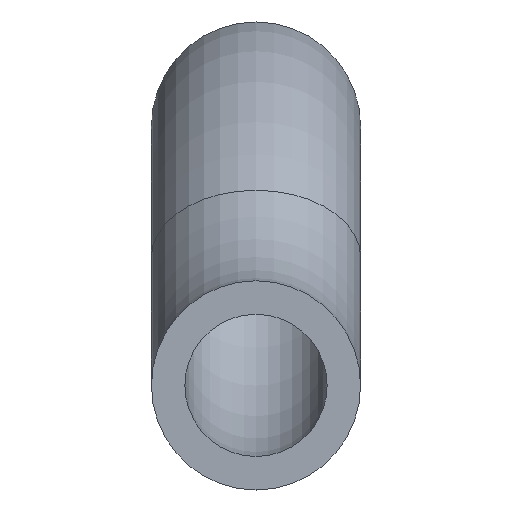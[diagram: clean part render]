
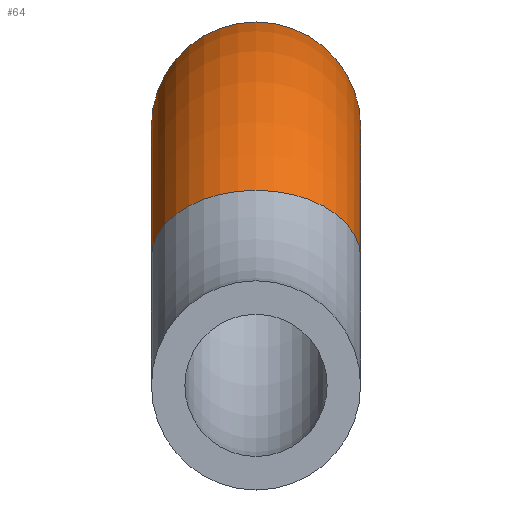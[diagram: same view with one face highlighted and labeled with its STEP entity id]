
A CAD part, front view. The second image highlights one B-rep face of the part: STEP entity #64.
In plain terms, the highlighted toroidal (fillet/blend) face has major radius 43.5 mm and minor radius 12.5 mm.
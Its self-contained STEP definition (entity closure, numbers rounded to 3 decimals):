
#64=ADVANCED_FACE('',(#164,#166),#168,.T.);
#164=FACE_OUTER_BOUND('',#165,.T.);
#165=EDGE_LOOP('',(#195));
#166=FACE_OUTER_BOUND('',#167,.T.);
#167=EDGE_LOOP('',(#196));
#168=TOROIDAL_SURFACE('',#169,43.5,12.5);
#169=AXIS2_PLACEMENT_3D('',#170,#171,#172);
#170=CARTESIAN_POINT('',(0.,0.,-12.5));
#171=DIRECTION('',(1.,0.,0.));
#172=DIRECTION('',(0.,0.769,0.64));
#195=ORIENTED_EDGE('',*,*,#207,.T.);
#196=ORIENTED_EDGE('',*,*,#208,.F.);
#207=EDGE_CURVE('',#229,#229,#230,.T.);
#208=EDGE_CURVE('',#231,#231,#232,.T.);
#229=VERTEX_POINT('',#283);
#230=CIRCLE('',#284,12.5);
#231=VERTEX_POINT('',#288);
#232=CIRCLE('',#289,12.5);
#283=CARTESIAN_POINT('',(-12.5,33.441,15.32));
#284=AXIS2_PLACEMENT_3D('',#285,#286,#287);
#285=CARTESIAN_POINT('',(0.,33.441,15.32));
#286=DIRECTION('',(0.,-0.64,0.769));
#287=DIRECTION('',(-1.,0.,0.));
#288=CARTESIAN_POINT('',(-12.5,-33.441,15.32));
#289=AXIS2_PLACEMENT_3D('',#290,#291,#292);
#290=CARTESIAN_POINT('',(0.,-33.441,15.32));
#291=DIRECTION('',(0.,-0.64,-0.769));
#292=DIRECTION('',(-1.,0.,0.));
